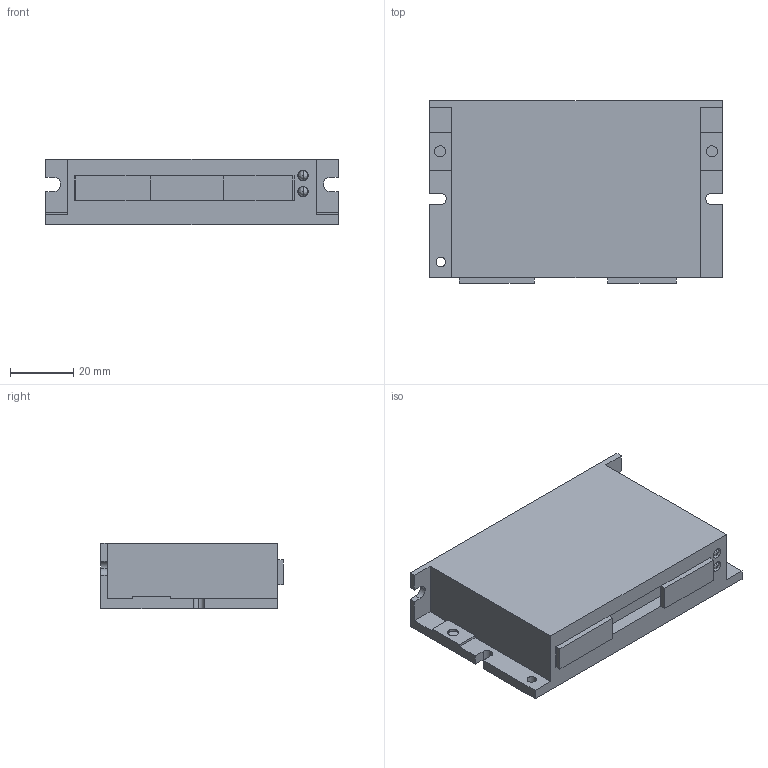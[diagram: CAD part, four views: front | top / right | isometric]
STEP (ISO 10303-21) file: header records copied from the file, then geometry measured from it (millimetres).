
FILE_DESCRIPTION((''),'2;1');
FILE_NAME('CU_SMD-7610','2013-07-24T',('jbuhisan'),(''),'PRO/ENGINEER BY PARAMETRIC TECHNOLOGY CORPORATION, 2011490','PRO/ENGINEER BY PARAMETRIC TECHNOLOGY CORPORATION, 2011490','');
FILE_SCHEMA(('CONFIG_CONTROL_DESIGN'));
Length unit declared in the file: inch
Products named in the file (1): CU_SMD-7610
Bounding box: 92.6 x 57.72 x 20.8 mm (x, y, z)
Surface area: 18512 mm2 (no closed solid volume)
Topology: 0 solids, 3 shells, 94 faces, 248 edges, 162 vertices
Faces by surface type: plane 64, cylinder 26, bspline 4
Entity records: 3034 total; most frequent: CARTESIAN_POINT 612, DIRECTION 498, ORIENTED_EDGE 484, EDGE_CURVE 248, VECTOR 178, LINE 178, VERTEX_POINT 162, AXIS2_PLACEMENT_3D 160
